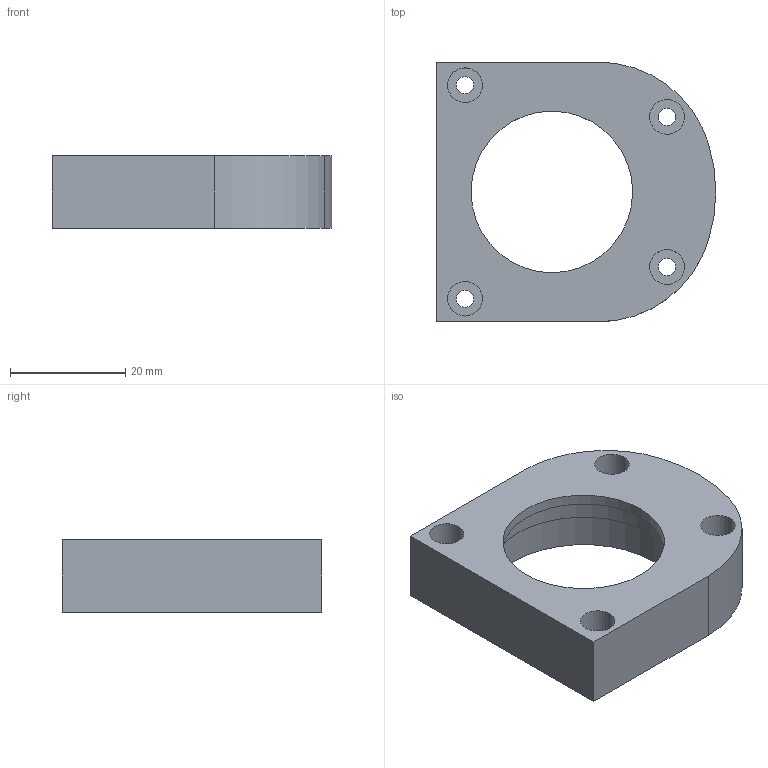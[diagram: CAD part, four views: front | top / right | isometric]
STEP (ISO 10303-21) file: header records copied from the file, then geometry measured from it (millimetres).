
FILE_DESCRIPTION (( 'STEP AP214' ), '1' );
FILE_NAME ('Planetary_cover.STEP', '2020-08-29T12:54:09', ( '' ), ( '' ), 'SwSTEP 2.0', 'SolidWorks 2020', '' );
FILE_SCHEMA (( 'AUTOMOTIVE_DESIGN' ));
Length unit declared in the file: millimetre
Products named in the file (1): Planetary_cover
Bounding box: 48.46 x 45 x 12.6 mm (x, y, z)
Volume: 13770 mm3; surface area: 6819.2 mm2
Topology: 1 solids, 1 shells, 36 faces, 84 edges, 56 vertices
Faces by surface type: cylinder 25, plane 11
Entity records: 1112 total; most frequent: DIRECTION 208, CARTESIAN_POINT 177, ORIENTED_EDGE 168, AXIS2_PLACEMENT_3D 87, EDGE_CURVE 84, VERTEX_POINT 56, EDGE_LOOP 52, CIRCLE 50
